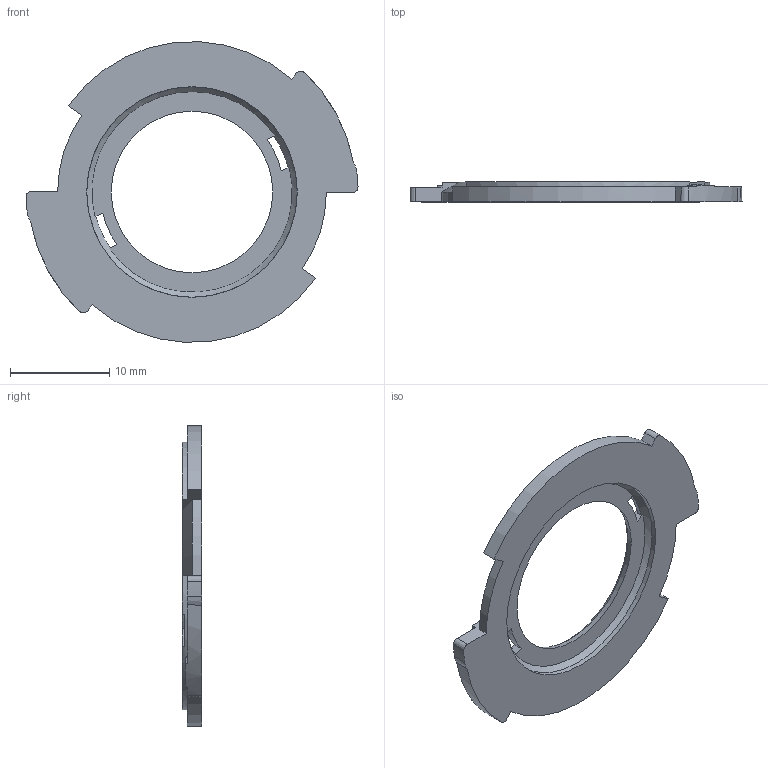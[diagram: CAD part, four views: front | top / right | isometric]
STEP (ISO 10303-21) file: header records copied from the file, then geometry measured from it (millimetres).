
FILE_DESCRIPTION(/* description */ (''),/* implementation_level */ '2;1');
FILE_NAME(/* name */ 'ARK-RH-SA.step',/* time_stamp */ '2024-10-08T10:07:10-04:00',/* author */ (''),/* organization */ (''),/* preprocessor_version */ 'ST-DEVELOPER v20',/* originating_system */ 'Autodesk Translation Framework v13.20.0.188',/* authorisation */ '');
FILE_SCHEMA (('AUTOMOTIVE_DESIGN { 1 0 10303 214 3 1 1 }'));
Length unit declared in the file: millimetre
Products named in the file (1): Reflector Holder - LES 8 - 13
Bounding box: 33.45 x 2 x 30.28 mm (x, y, z)
Volume: 795.4 mm3; surface area: 1326 mm2
Topology: 1 solids, 1 shells, 53 faces, 161 edges, 107 vertices
Faces by surface type: cone 27, plane 19, cylinder 4, torus 3
Entity records: 1972 total; most frequent: CARTESIAN_POINT 522, ORIENTED_EDGE 322, DIRECTION 285, EDGE_CURVE 161, AXIS2_PLACEMENT_3D 118, VERTEX_POINT 107, CIRCLE 64, EDGE_LOOP 56
